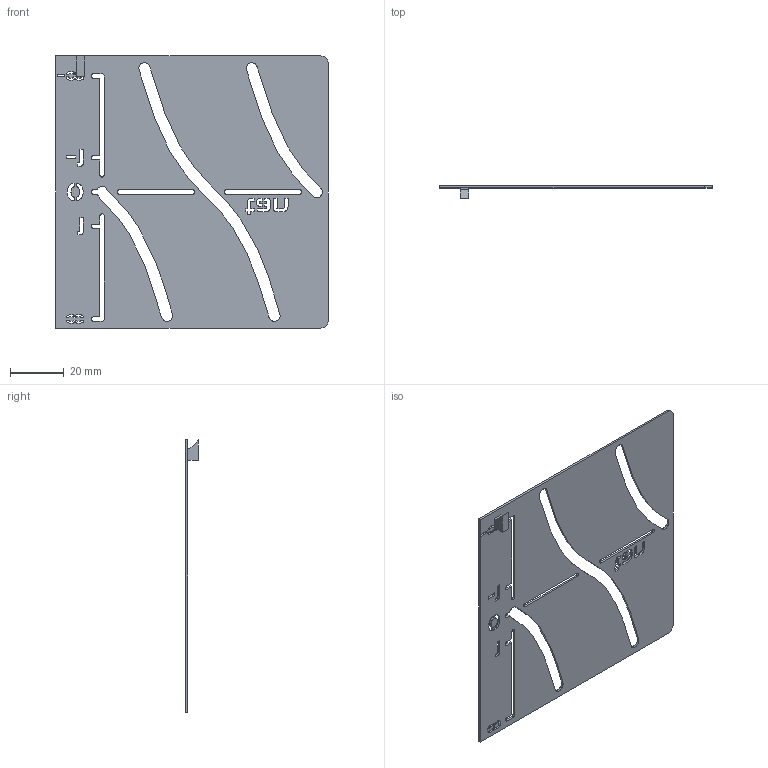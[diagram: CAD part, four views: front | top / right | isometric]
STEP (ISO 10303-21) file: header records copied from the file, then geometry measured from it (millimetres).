
FILE_DESCRIPTION (( 'STEP AP214' ), '1' );
FILE_NAME ('3 - Top Face Right.STEP', '2022-11-25T05:43:23', ( '' ), ( '' ), 'SwSTEP 2.0', 'SolidWorks 2021', '' );
FILE_SCHEMA (( 'AUTOMOTIVE_DESIGN' ));
Length unit declared in the file: inch
Products named in the file (1): 3 - Top Face Right
Bounding box: 101.35 x 4.76 x 101.09 mm (x, y, z)
Volume: 7196 mm3; surface area: 19148.9 mm2
Topology: 1 solids, 1 shells, 215 faces, 637 edges, 424 vertices
Faces by surface type: plane 125, bspline 64, cylinder 26
Entity records: 10306 total; most frequent: CARTESIAN_POINT 4822, ORIENTED_EDGE 1274, DIRECTION 864, EDGE_CURVE 637, LINE 456, VECTOR 456, VERTEX_POINT 424, EDGE_LOOP 257
